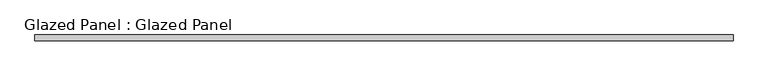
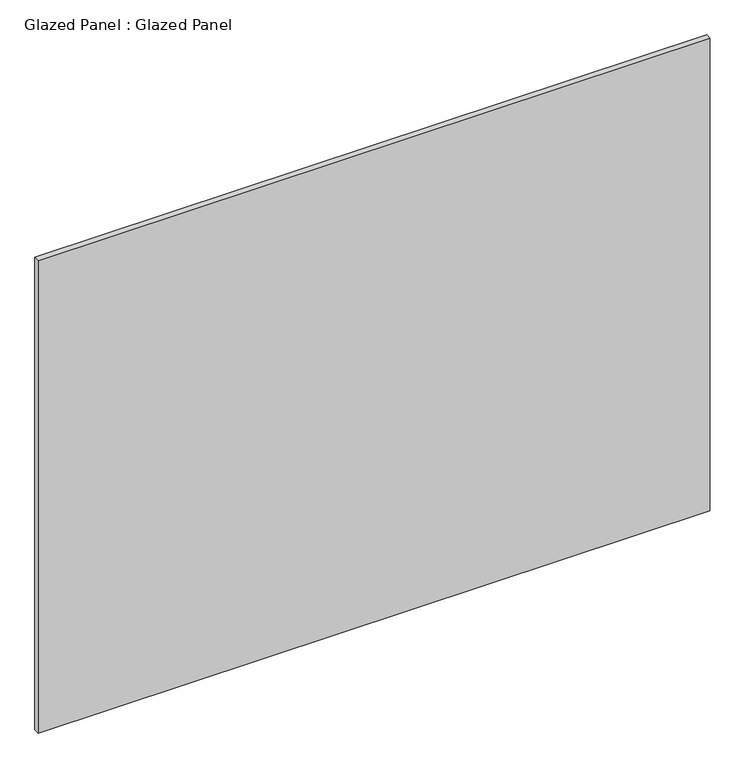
"""IFC4 building model written with IfcOpenShell, lengths in millimetres: plate geometry, Glazed Panel : Glazed Panel."""

from ifc_helpers import new_model, si_unit, origin, origin_with_axes, place, context, project, spatial, polyline, outline, extrude, source, transform, mapped, element, save


def glazed_panel_glazed_panel_515930c6(model_context):
    return source(origin(), model_context, "Body", "SweptSolid", [
        extrude(outline(polyline([(1576.4558333, 38.1), (-1576.4558333, 38.1), (-1576.4558333, 63.5), (1576.4558333, 63.5), (1576.4558333, 38.1)])), origin_with_axes(), (0.0, 0.0, 1.0), 2343.15),
    ])


if __name__ == "__main__":
    model = new_model("IFC4")
    model_context = context("Model", 3, world=origin())
    ifc_project = project(units=[si_unit("LENGTHUNIT", "METRE", prefix="MILLI")], contexts=[model_context])
    site = spatial("IfcSite", under=ifc_project)
    building = spatial("IfcBuilding", under=site)
    placement = place(None, origin())
    glazed_panel_glazed_panel_shape = glazed_panel_glazed_panel_515930c6(model_context)
    element("IfcPlate", 1, ObjectType="Glazed Panel : Glazed Panel", at=placement, inside=building, context=model_context, shape_type="MappedRepresentation", body=[
        mapped(glazed_panel_glazed_panel_shape, transform((0.0, 0.0, 0.0), x_axis=(1.0, 0.0, 0.0), y_axis=(0.0, 1.0, 0.0), z_axis=(0.0, 0.0, 1.0))),
    ])
    save(model, "model.ifc")
